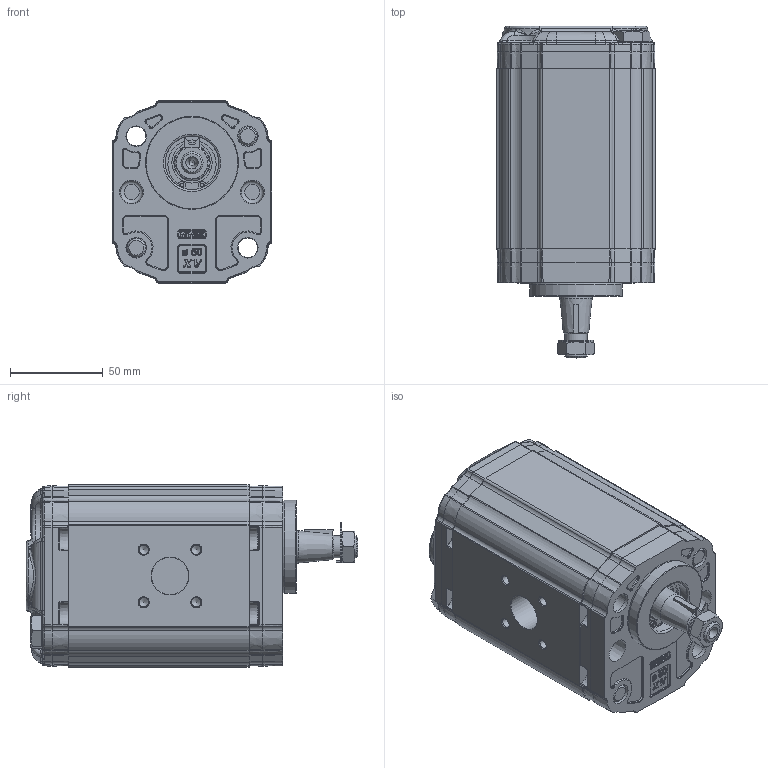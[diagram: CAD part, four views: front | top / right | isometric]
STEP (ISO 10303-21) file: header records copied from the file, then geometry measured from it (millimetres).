
FILE_DESCRIPTION(/* description */ ('Unknown'),/* implementation_level */ '2;1');
FILE_NAME(/* name */ 'X2P6122FSSA',/* time_stamp */ '2026-06-03T17:45:23+02:00',/* author */ ('Unknown'),/* organization */ ('Unknown'),/* preprocessor_version */ 'ST-DEVELOPER v16.7',/* originating_system */ 'Solid Edge',/* authorisation */ 'Unknown');
FILE_SCHEMA (('AUTOMOTIVE_DESIGN {1 0 10303 214 3 1 1}'));
Products named in the file (5): X2P6122FSSA; X2P22; 2F; X2SSH97; XP213-A
Assembly tree (4 placements, depth 2):
  X2P6122FSSA
    X2P22
    2F
    X2SSH97
    XP213-A
Bounding box: 86 x 178.65 x 98 mm (x, y, z)
Volume: 974124.7 mm3; surface area: 122487.5 mm2
Topology: 4 solids, 8 shells, 2649 faces, 6473 edges, 3906 vertices
Faces by surface type: cylinder 753, bspline 670, plane 650, cone 299, torus 213, sphere 64
Full cylindrical faces by diameter (mm): 2 x2, 5 x8, 10 x6, 10.5 x8, 11 x2, 12 x2, 12.5 x1, 16 x2, 17.42 x1, 17.48 x2, 18.724 x1, 20 x2, 20.595 x1, 21.741 x1, 25 x1, 25.834 x1, 28.56 x1, 28.57 x1, 28.8 x1, 30.5 x1, 50 x1
Entity records: 123800 total; most frequent: CARTESIAN_POINT 48958, ORIENTED_EDGE 12446, DIRECTION 10204, EDGE_CURVE 6223, AXIS2_PLACEMENT_3D 4029, VERTEX_POINT 3848, FACE_BOUND 2931, EDGE_LOOP 2921
